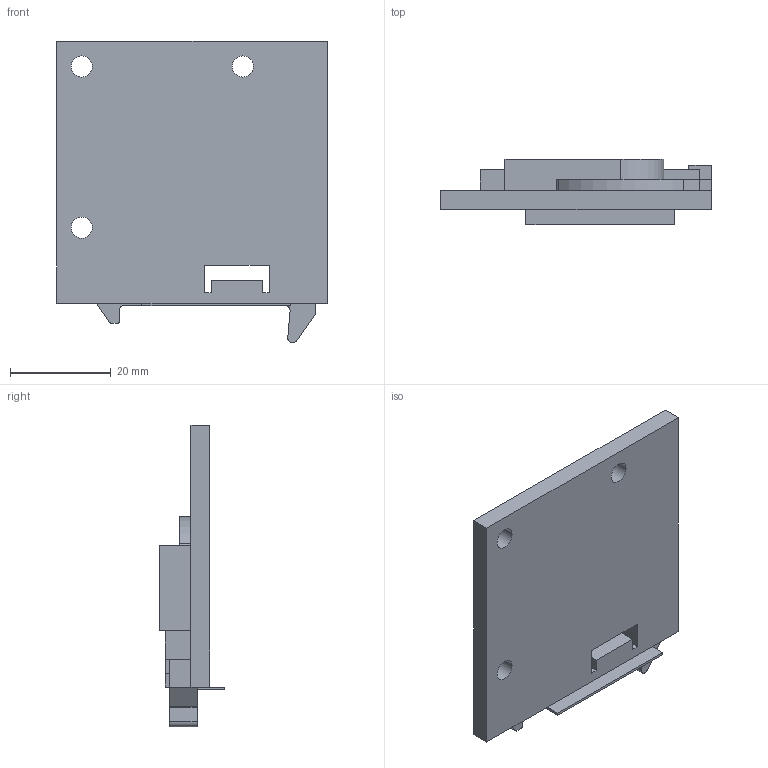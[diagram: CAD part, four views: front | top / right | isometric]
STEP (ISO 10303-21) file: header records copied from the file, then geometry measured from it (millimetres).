
FILE_DESCRIPTION (( 'STEP AP203' ), '1' );
FILE_NAME ('KU-Modell_Verstelladapter_Rechts.step', '2018-03-13T10:16:00', ( 'Windows-Benutzer' ), ( '' ), 'SwSTEP 2.0', 'SolidWorks 2017', '' );
FILE_SCHEMA (( 'CONFIG_CONTROL_DESIGN' ));
Length unit declared in the file: millimetre
Products named in the file (1): KU-Modell_Verstelladapter_Rechts
Bounding box: 53.8 x 13 x 59.87 mm (x, y, z)
Volume: 15901.2 mm3; surface area: 8039.5 mm2
Topology: 1 solids, 1 shells, 67 faces, 190 edges, 125 vertices
Faces by surface type: plane 51, cylinder 16
Entity records: 2249 total; most frequent: CARTESIAN_POINT 383, ORIENTED_EDGE 380, DIRECTION 358, EDGE_CURVE 190, VECTOR 158, LINE 158, VERTEX_POINT 125, AXIS2_PLACEMENT_3D 100
